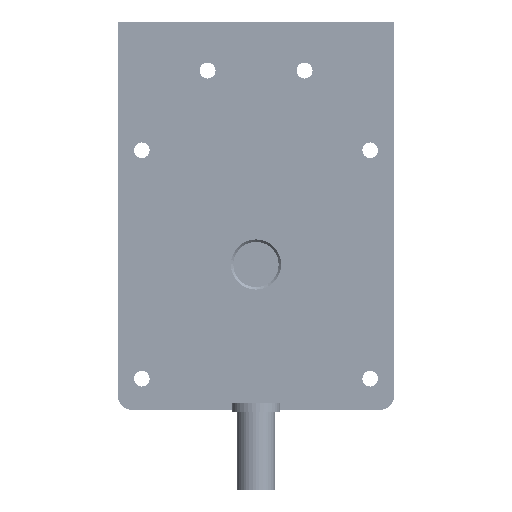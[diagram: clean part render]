
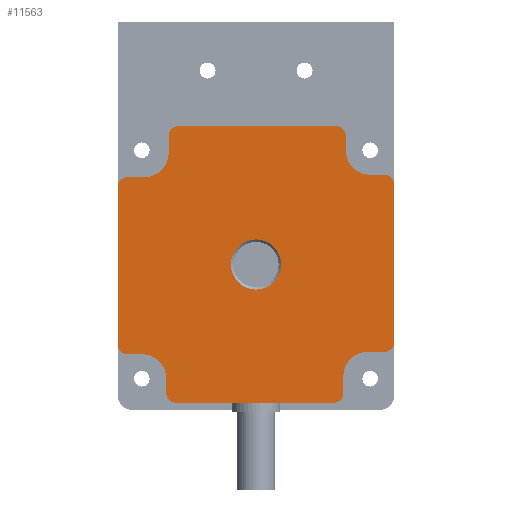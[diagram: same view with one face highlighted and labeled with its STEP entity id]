
A CAD part, front view. The second image highlights one B-rep face of the part: STEP entity #11563.
In plain terms, the highlighted planar face has unit normal (0, -1, 0) as drawn and (0, 0, -1) by its records, which use the part's own axes.
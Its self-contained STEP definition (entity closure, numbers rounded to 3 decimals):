
#1256=FACE_BOUND('',#3046,.T.);
#1618=CIRCLE('',#12456,5.175);
#1620=CIRCLE('',#12461,2.);
#1621=CIRCLE('',#12462,5.);
#1622=CIRCLE('',#12463,2.);
#1623=CIRCLE('',#12464,2.);
#1624=CIRCLE('',#12465,5.);
#1625=CIRCLE('',#12466,2.);
#1626=CIRCLE('',#12467,2.);
#1627=CIRCLE('',#12468,5.);
#1628=CIRCLE('',#12469,2.);
#1629=CIRCLE('',#12470,2.);
#1630=CIRCLE('',#12471,5.);
#1631=CIRCLE('',#12472,2.);
#2134=FACE_OUTER_BOUND('',#3045,.T.);
#3045=EDGE_LOOP('',(#9057,#9058,#9059,#9060,#9061,#9062,#9063,#9064,#9065,
#9066,#9067,#9068,#9069,#9070,#9071,#9072,#9073,#9074,#9075,#9076,#9077,
#9078,#9079,#9080));
#3046=EDGE_LOOP('',(#9081));
#3970=LINE('',#17708,#4799);
#3971=LINE('',#17712,#4800);
#3972=LINE('',#17716,#4801);
#3973=LINE('',#17720,#4802);
#3974=LINE('',#17724,#4803);
#3975=LINE('',#17728,#4804);
#3976=LINE('',#17732,#4805);
#3977=LINE('',#17736,#4806);
#3978=LINE('',#17740,#4807);
#3979=LINE('',#17744,#4808);
#3980=LINE('',#17748,#4809);
#3981=LINE('',#17752,#4810);
#4799=VECTOR('',#14289,32.5);
#4800=VECTOR('',#14292,3.5);
#4801=VECTOR('',#14295,3.5);
#4802=VECTOR('',#14298,32.5);
#4803=VECTOR('',#14301,3.);
#4804=VECTOR('',#14304,3.);
#4805=VECTOR('',#14307,32.5);
#4806=VECTOR('',#14310,3.5);
#4807=VECTOR('',#14313,3.5);
#4808=VECTOR('',#14316,32.5);
#4809=VECTOR('',#14319,3.);
#4810=VECTOR('',#14322,3.);
#5725=VERTEX_POINT('',#17699);
#5727=VERTEX_POINT('',#17706);
#5728=VERTEX_POINT('',#17707);
#5729=VERTEX_POINT('',#17709);
#5730=VERTEX_POINT('',#17711);
#5731=VERTEX_POINT('',#17713);
#5732=VERTEX_POINT('',#17715);
#5733=VERTEX_POINT('',#17717);
#5734=VERTEX_POINT('',#17719);
#5735=VERTEX_POINT('',#17721);
#5736=VERTEX_POINT('',#17723);
#5737=VERTEX_POINT('',#17725);
#5738=VERTEX_POINT('',#17727);
#5739=VERTEX_POINT('',#17729);
#5740=VERTEX_POINT('',#17731);
#5741=VERTEX_POINT('',#17733);
#5742=VERTEX_POINT('',#17735);
#5743=VERTEX_POINT('',#17737);
#5744=VERTEX_POINT('',#17739);
#5745=VERTEX_POINT('',#17741);
#5746=VERTEX_POINT('',#17743);
#5747=VERTEX_POINT('',#17745);
#5748=VERTEX_POINT('',#17747);
#5749=VERTEX_POINT('',#17749);
#5750=VERTEX_POINT('',#17751);
#6959=EDGE_CURVE('',#5725,#5725,#1618,.T.);
#6961=EDGE_CURVE('',#5727,#5728,#3970,.T.);
#6962=EDGE_CURVE('',#5727,#5729,#1620,.T.);
#6963=EDGE_CURVE('',#5730,#5729,#3971,.T.);
#6964=EDGE_CURVE('',#5730,#5731,#1621,.T.);
#6965=EDGE_CURVE('',#5732,#5731,#3972,.T.);
#6966=EDGE_CURVE('',#5732,#5733,#1622,.T.);
#6967=EDGE_CURVE('',#5734,#5733,#3973,.T.);
#6968=EDGE_CURVE('',#5734,#5735,#1623,.T.);
#6969=EDGE_CURVE('',#5736,#5735,#3974,.T.);
#6970=EDGE_CURVE('',#5736,#5737,#1624,.T.);
#6971=EDGE_CURVE('',#5738,#5737,#3975,.T.);
#6972=EDGE_CURVE('',#5738,#5739,#1625,.T.);
#6973=EDGE_CURVE('',#5739,#5740,#3976,.T.);
#6974=EDGE_CURVE('',#5740,#5741,#1626,.T.);
#6975=EDGE_CURVE('',#5742,#5741,#3977,.T.);
#6976=EDGE_CURVE('',#5742,#5743,#1627,.T.);
#6977=EDGE_CURVE('',#5744,#5743,#3978,.T.);
#6978=EDGE_CURVE('',#5744,#5745,#1628,.T.);
#6979=EDGE_CURVE('',#5746,#5745,#3979,.T.);
#6980=EDGE_CURVE('',#5746,#5747,#1629,.T.);
#6981=EDGE_CURVE('',#5748,#5747,#3980,.T.);
#6982=EDGE_CURVE('',#5748,#5749,#1630,.T.);
#6983=EDGE_CURVE('',#5750,#5749,#3981,.T.);
#6984=EDGE_CURVE('',#5750,#5728,#1631,.T.);
#9057=ORIENTED_EDGE('',*,*,#6961,.F.);
#9058=ORIENTED_EDGE('',*,*,#6962,.T.);
#9059=ORIENTED_EDGE('',*,*,#6963,.F.);
#9060=ORIENTED_EDGE('',*,*,#6964,.T.);
#9061=ORIENTED_EDGE('',*,*,#6965,.F.);
#9062=ORIENTED_EDGE('',*,*,#6966,.T.);
#9063=ORIENTED_EDGE('',*,*,#6967,.F.);
#9064=ORIENTED_EDGE('',*,*,#6968,.T.);
#9065=ORIENTED_EDGE('',*,*,#6969,.F.);
#9066=ORIENTED_EDGE('',*,*,#6970,.T.);
#9067=ORIENTED_EDGE('',*,*,#6971,.F.);
#9068=ORIENTED_EDGE('',*,*,#6972,.T.);
#9069=ORIENTED_EDGE('',*,*,#6973,.T.);
#9070=ORIENTED_EDGE('',*,*,#6974,.T.);
#9071=ORIENTED_EDGE('',*,*,#6975,.F.);
#9072=ORIENTED_EDGE('',*,*,#6976,.T.);
#9073=ORIENTED_EDGE('',*,*,#6977,.F.);
#9074=ORIENTED_EDGE('',*,*,#6978,.T.);
#9075=ORIENTED_EDGE('',*,*,#6979,.F.);
#9076=ORIENTED_EDGE('',*,*,#6980,.T.);
#9077=ORIENTED_EDGE('',*,*,#6981,.F.);
#9078=ORIENTED_EDGE('',*,*,#6982,.T.);
#9079=ORIENTED_EDGE('',*,*,#6983,.F.);
#9080=ORIENTED_EDGE('',*,*,#6984,.T.);
#9081=ORIENTED_EDGE('',*,*,#6959,.T.);
#11165=PLANE('',#12460);
#11563=ADVANCED_FACE('',(#2134,#1256),#11165,.F.);
#12456=AXIS2_PLACEMENT_3D('',#17700,#14279,#14280);
#12460=AXIS2_PLACEMENT_3D('',#17705,#14287,#14288);
#12461=AXIS2_PLACEMENT_3D('',#17710,#14290,#14291);
#12462=AXIS2_PLACEMENT_3D('',#17714,#14293,#14294);
#12463=AXIS2_PLACEMENT_3D('',#17718,#14296,#14297);
#12464=AXIS2_PLACEMENT_3D('',#17722,#14299,#14300);
#12465=AXIS2_PLACEMENT_3D('',#17726,#14302,#14303);
#12466=AXIS2_PLACEMENT_3D('',#17730,#14305,#14306);
#12467=AXIS2_PLACEMENT_3D('',#17734,#14308,#14309);
#12468=AXIS2_PLACEMENT_3D('',#17738,#14311,#14312);
#12469=AXIS2_PLACEMENT_3D('',#17742,#14314,#14315);
#12470=AXIS2_PLACEMENT_3D('',#17746,#14317,#14318);
#12471=AXIS2_PLACEMENT_3D('',#17750,#14320,#14321);
#12472=AXIS2_PLACEMENT_3D('',#17753,#14323,#14324);
#14279=DIRECTION('center_axis',(0.,0.,1.));
#14280=DIRECTION('ref_axis',(1.,0.,0.));
#14287=DIRECTION('center_axis',(0.,0.,1.));
#14288=DIRECTION('ref_axis',(-1.,0.,0.));
#14289=DIRECTION('',(1.,0.,0.));
#14290=DIRECTION('center_axis',(0.,0.,-1.));
#14291=DIRECTION('ref_axis',(0.,-1.,0.));
#14292=DIRECTION('',(0.,-1.,0.));
#14293=DIRECTION('center_axis',(0.,0.,1.));
#14294=DIRECTION('ref_axis',(1.,0.,0.));
#14295=DIRECTION('',(1.,0.,0.));
#14296=DIRECTION('center_axis',(0.,0.,-1.));
#14297=DIRECTION('ref_axis',(0.,-1.,0.));
#14298=DIRECTION('',(0.,-1.,0.));
#14299=DIRECTION('center_axis',(0.,0.,-1.));
#14300=DIRECTION('ref_axis',(-1.,0.,0.));
#14301=DIRECTION('',(-1.,0.,0.));
#14302=DIRECTION('center_axis',(0.,0.,1.));
#14303=DIRECTION('ref_axis',(0.,-1.,0.));
#14304=DIRECTION('',(0.,-1.,0.));
#14305=DIRECTION('center_axis',(0.,0.,-1.));
#14306=DIRECTION('ref_axis',(-1.,0.,0.));
#14307=DIRECTION('',(1.,0.,0.));
#14308=DIRECTION('center_axis',(0.,0.,-1.));
#14309=DIRECTION('ref_axis',(0.,1.,0.));
#14310=DIRECTION('',(0.,1.,0.));
#14311=DIRECTION('center_axis',(0.,0.,1.));
#14312=DIRECTION('ref_axis',(-1.,0.,0.));
#14313=DIRECTION('',(-1.,0.,0.));
#14314=DIRECTION('center_axis',(0.,0.,-1.));
#14315=DIRECTION('ref_axis',(0.,1.,0.));
#14316=DIRECTION('',(0.,1.,0.));
#14317=DIRECTION('center_axis',(0.,0.,-1.));
#14318=DIRECTION('ref_axis',(1.,0.,0.));
#14319=DIRECTION('',(1.,0.,0.));
#14320=DIRECTION('center_axis',(0.,0.,1.));
#14321=DIRECTION('ref_axis',(0.,1.,0.));
#14322=DIRECTION('',(0.,1.,0.));
#14323=DIRECTION('center_axis',(0.,0.,-1.));
#14324=DIRECTION('ref_axis',(1.,0.,0.));
#17699=CARTESIAN_POINT('',(-5.175,0.,-28.));
#17700=CARTESIAN_POINT('Origin',(0.,0.,-28.));
#17705=CARTESIAN_POINT('Origin',(0.,0.,-28.));
#17706=CARTESIAN_POINT('',(-16.,-28.5,-28.));
#17707=CARTESIAN_POINT('',(16.5,-28.5,-28.));
#17708=CARTESIAN_POINT('',(-16.,-28.5,-28.));
#17709=CARTESIAN_POINT('',(-18.,-26.5,-28.));
#17710=CARTESIAN_POINT('Origin',(-16.,-26.5,-28.));
#17711=CARTESIAN_POINT('',(-18.,-23.,-28.));
#17712=CARTESIAN_POINT('',(-18.,-23.,-28.));
#17713=CARTESIAN_POINT('',(-23.,-18.,-28.));
#17714=CARTESIAN_POINT('Origin',(-23.,-23.,-28.));
#17715=CARTESIAN_POINT('',(-26.5,-18.,-28.));
#17716=CARTESIAN_POINT('',(-26.5,-18.,-28.));
#17717=CARTESIAN_POINT('',(-28.5,-16.,-28.));
#17718=CARTESIAN_POINT('Origin',(-26.5,-16.,-28.));
#17719=CARTESIAN_POINT('',(-28.5,16.5,-28.));
#17720=CARTESIAN_POINT('',(-28.5,16.5,-28.));
#17721=CARTESIAN_POINT('',(-26.5,18.5,-28.));
#17722=CARTESIAN_POINT('Origin',(-26.5,16.5,-28.));
#17723=CARTESIAN_POINT('',(-23.5,18.5,-28.));
#17724=CARTESIAN_POINT('',(-23.5,18.5,-28.));
#17725=CARTESIAN_POINT('',(-18.5,23.5,-28.));
#17726=CARTESIAN_POINT('Origin',(-23.5,23.5,-28.));
#17727=CARTESIAN_POINT('',(-18.5,26.5,-28.));
#17728=CARTESIAN_POINT('',(-18.5,26.5,-28.));
#17729=CARTESIAN_POINT('',(-16.5,28.5,-28.));
#17730=CARTESIAN_POINT('Origin',(-16.5,26.5,-28.));
#17731=CARTESIAN_POINT('',(16.,28.5,-28.));
#17732=CARTESIAN_POINT('',(-16.5,28.5,-28.));
#17733=CARTESIAN_POINT('',(18.,26.5,-28.));
#17734=CARTESIAN_POINT('Origin',(16.,26.5,-28.));
#17735=CARTESIAN_POINT('',(18.,23.,-28.));
#17736=CARTESIAN_POINT('',(18.,23.,-28.));
#17737=CARTESIAN_POINT('',(23.,18.,-28.));
#17738=CARTESIAN_POINT('Origin',(23.,23.,-28.));
#17739=CARTESIAN_POINT('',(26.5,18.,-28.));
#17740=CARTESIAN_POINT('',(26.5,18.,-28.));
#17741=CARTESIAN_POINT('',(28.5,16.,-28.));
#17742=CARTESIAN_POINT('Origin',(26.5,16.,-28.));
#17743=CARTESIAN_POINT('',(28.5,-16.5,-28.));
#17744=CARTESIAN_POINT('',(28.5,-16.5,-28.));
#17745=CARTESIAN_POINT('',(26.5,-18.5,-28.));
#17746=CARTESIAN_POINT('Origin',(26.5,-16.5,-28.));
#17747=CARTESIAN_POINT('',(23.5,-18.5,-28.));
#17748=CARTESIAN_POINT('',(23.5,-18.5,-28.));
#17749=CARTESIAN_POINT('',(18.5,-23.5,-28.));
#17750=CARTESIAN_POINT('Origin',(23.5,-23.5,-28.));
#17751=CARTESIAN_POINT('',(18.5,-26.5,-28.));
#17752=CARTESIAN_POINT('',(18.5,-26.5,-28.));
#17753=CARTESIAN_POINT('Origin',(16.5,-26.5,-28.));
